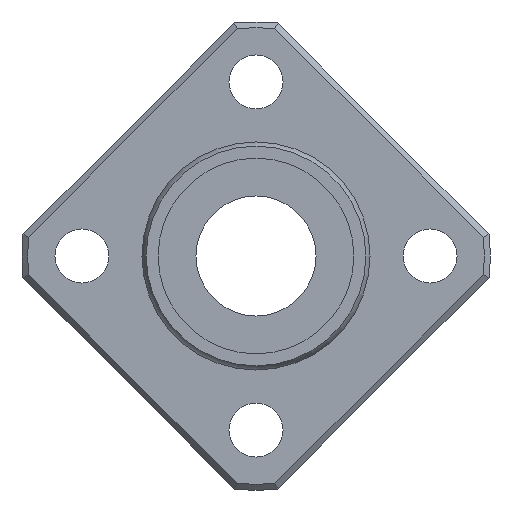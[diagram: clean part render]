
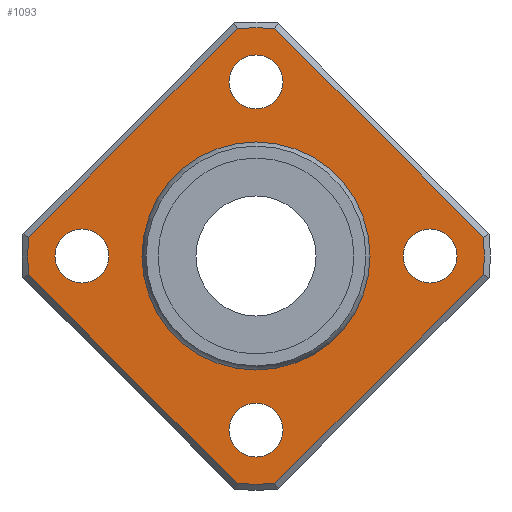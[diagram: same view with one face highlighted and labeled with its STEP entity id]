
A CAD part, left-side view. The second image highlights one B-rep face of the part: STEP entity #1093.
In plain terms, the highlighted planar face has unit normal (-1, 0, 0).
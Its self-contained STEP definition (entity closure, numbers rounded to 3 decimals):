
#669=CARTESIAN_POINT('',(-21.5,18.935,1.571));
#670=VERTEX_POINT('',#669);
#678=CARTESIAN_POINT('',(-21.5,1.571,18.935));
#679=VERTEX_POINT('',#678);
#680=CARTESIAN_POINT('',(-21.5,18.935,1.571));
#681=DIRECTION('',(0.0,-0.707,0.707));
#682=VECTOR('',#681,24.556);
#683=LINE('',#680,#682);
#684=EDGE_CURVE('',#670,#679,#683,.T.);
#711=CARTESIAN_POINT('',(-21.5,-1.571,18.935));
#712=VERTEX_POINT('',#711);
#713=CARTESIAN_POINT('',(-21.5,0.0,0.0));
#714=DIRECTION('',(1.0,0.0,0.0));
#715=DIRECTION('',(0.0,0.0,1.0));
#716=AXIS2_PLACEMENT_3D('',#713,#714,#715);
#717=CIRCLE('',#716,19.);
#718=EDGE_CURVE('',#679,#712,#717,.T.);
#744=CARTESIAN_POINT('',(-21.5,-18.935,1.571));
#745=VERTEX_POINT('',#744);
#746=CARTESIAN_POINT('',(-21.5,-1.571,18.935));
#747=DIRECTION('',(0.0,-0.707,-0.707));
#748=VECTOR('',#747,24.556);
#749=LINE('',#746,#748);
#750=EDGE_CURVE('',#712,#745,#749,.T.);
#777=CARTESIAN_POINT('',(-21.5,-18.935,-1.571));
#778=VERTEX_POINT('',#777);
#779=CARTESIAN_POINT('',(-21.5,0.0,0.0));
#780=DIRECTION('',(1.0,0.0,0.0));
#781=DIRECTION('',(0.0,0.0,1.0));
#782=AXIS2_PLACEMENT_3D('',#779,#780,#781);
#783=CIRCLE('',#782,19.);
#784=EDGE_CURVE('',#745,#778,#783,.T.);
#810=CARTESIAN_POINT('',(-21.5,-1.571,-18.935));
#811=VERTEX_POINT('',#810);
#812=CARTESIAN_POINT('',(-21.5,-18.935,-1.571));
#813=DIRECTION('',(0.0,0.707,-0.707));
#814=VECTOR('',#813,24.556);
#815=LINE('',#812,#814);
#816=EDGE_CURVE('',#778,#811,#815,.T.);
#843=CARTESIAN_POINT('',(-21.5,1.571,-18.935));
#844=VERTEX_POINT('',#843);
#845=CARTESIAN_POINT('',(-21.5,0.0,0.0));
#846=DIRECTION('',(1.0,0.0,0.0));
#847=DIRECTION('',(0.0,0.0,-1.0));
#848=AXIS2_PLACEMENT_3D('',#845,#846,#847);
#849=CIRCLE('',#848,19.);
#850=EDGE_CURVE('',#811,#844,#849,.T.);
#876=CARTESIAN_POINT('',(-21.5,18.935,-1.571));
#877=VERTEX_POINT('',#876);
#878=CARTESIAN_POINT('',(-21.5,1.571,-18.935));
#879=DIRECTION('',(0.0,0.707,0.707));
#880=VECTOR('',#879,24.556);
#881=LINE('',#878,#880);
#882=EDGE_CURVE('',#844,#877,#881,.T.);
#907=CARTESIAN_POINT('',(-21.5,0.0,0.0));
#908=DIRECTION('',(1.0,0.0,0.0));
#909=DIRECTION('',(0.0,0.0,1.0));
#910=AXIS2_PLACEMENT_3D('',#907,#908,#909);
#911=CIRCLE('',#910,19.);
#912=EDGE_CURVE('',#877,#670,#911,.T.);
#1023=CARTESIAN_POINT('',(-21.5,0.0,14.393));
#1024=DIRECTION('',(-1.0,0.0,0.0));
#1025=DIRECTION('',(0.0,0.0,1.0));
#1026=AXIS2_PLACEMENT_3D('',#1023,#1024,#1025);
#1027=PLANE('',#1026);
#1028=ORIENTED_EDGE('',*,*,#684,.F.);
#1029=ORIENTED_EDGE('',*,*,#912,.F.);
#1030=ORIENTED_EDGE('',*,*,#882,.F.);
#1031=ORIENTED_EDGE('',*,*,#850,.F.);
#1032=ORIENTED_EDGE('',*,*,#816,.F.);
#1033=ORIENTED_EDGE('',*,*,#784,.F.);
#1034=ORIENTED_EDGE('',*,*,#750,.F.);
#1035=ORIENTED_EDGE('',*,*,#718,.F.);
#1036=EDGE_LOOP('',(#1028,#1029,#1030,#1031,#1032,#1033,#1034,#1035));
#1037=FACE_OUTER_BOUND('',#1036,.T.);
#1038=CARTESIAN_POINT('',(-21.5,0.0,9.286));
#1039=VERTEX_POINT('',#1038);
#1040=CARTESIAN_POINT('',(-21.5,0.0,0.0));
#1041=DIRECTION('',(-1.0,0.0,0.0));
#1042=DIRECTION('',(0.0,0.0,1.0));
#1043=AXIS2_PLACEMENT_3D('',#1040,#1041,#1042);
#1044=CIRCLE('',#1043,9.286);
#1045=EDGE_CURVE('',#1039,#1039,#1044,.T.);
#1046=ORIENTED_EDGE('',*,*,#1045,.F.);
#1047=EDGE_LOOP('',(#1046));
#1048=FACE_BOUND('',#1047,.T.);
#1049=CARTESIAN_POINT('',(-21.5,12.25,0.));
#1050=VERTEX_POINT('',#1049);
#1051=CARTESIAN_POINT('',(-21.5,14.5,0.));
#1052=DIRECTION('',(1.0,0.0,0.0));
#1053=DIRECTION('',(0.0,1.0,0.0));
#1054=AXIS2_PLACEMENT_3D('',#1051,#1052,#1053);
#1055=CIRCLE('',#1054,2.25);
#1056=EDGE_CURVE('',#1050,#1050,#1055,.T.);
#1057=ORIENTED_EDGE('',*,*,#1056,.T.);
#1058=EDGE_LOOP('',(#1057));
#1059=FACE_BOUND('',#1058,.T.);
#1060=CARTESIAN_POINT('',(-21.5,-16.75,0.));
#1061=VERTEX_POINT('',#1060);
#1062=CARTESIAN_POINT('',(-21.5,-14.5,0.0));
#1063=DIRECTION('',(1.0,0.0,0.0));
#1064=DIRECTION('',(0.0,1.0,0.0));
#1065=AXIS2_PLACEMENT_3D('',#1062,#1063,#1064);
#1066=CIRCLE('',#1065,2.25);
#1067=EDGE_CURVE('',#1061,#1061,#1066,.T.);
#1068=ORIENTED_EDGE('',*,*,#1067,.T.);
#1069=EDGE_LOOP('',(#1068));
#1070=FACE_BOUND('',#1069,.T.);
#1071=CARTESIAN_POINT('',(-21.5,-2.25,14.5));
#1072=VERTEX_POINT('',#1071);
#1073=CARTESIAN_POINT('',(-21.5,0.,14.5));
#1074=DIRECTION('',(1.0,0.0,0.0));
#1075=DIRECTION('',(0.0,1.0,0.0));
#1076=AXIS2_PLACEMENT_3D('',#1073,#1074,#1075);
#1077=CIRCLE('',#1076,2.25);
#1078=EDGE_CURVE('',#1072,#1072,#1077,.T.);
#1079=ORIENTED_EDGE('',*,*,#1078,.T.);
#1080=EDGE_LOOP('',(#1079));
#1081=FACE_BOUND('',#1080,.T.);
#1082=CARTESIAN_POINT('',(-21.5,-2.25,-14.5));
#1083=VERTEX_POINT('',#1082);
#1084=CARTESIAN_POINT('',(-21.5,0.,-14.5));
#1085=DIRECTION('',(1.0,0.0,0.0));
#1086=DIRECTION('',(0.0,1.0,0.0));
#1087=AXIS2_PLACEMENT_3D('',#1084,#1085,#1086);
#1088=CIRCLE('',#1087,2.25);
#1089=EDGE_CURVE('',#1083,#1083,#1088,.T.);
#1090=ORIENTED_EDGE('',*,*,#1089,.T.);
#1091=EDGE_LOOP('',(#1090));
#1092=FACE_BOUND('',#1091,.T.);
#1093=ADVANCED_FACE('',(#1037,#1048,#1059,#1070,#1081,#1092),#1027,.T.);
